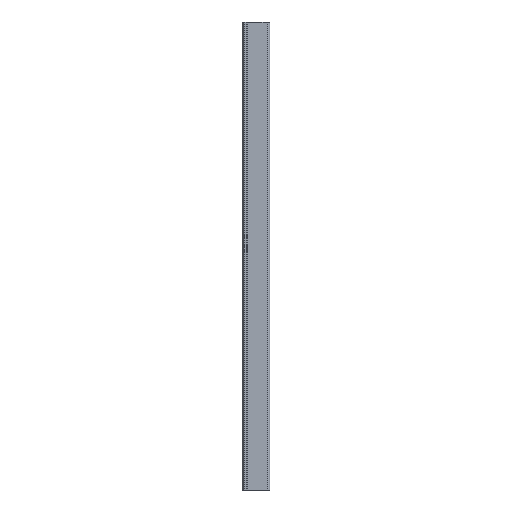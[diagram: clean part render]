
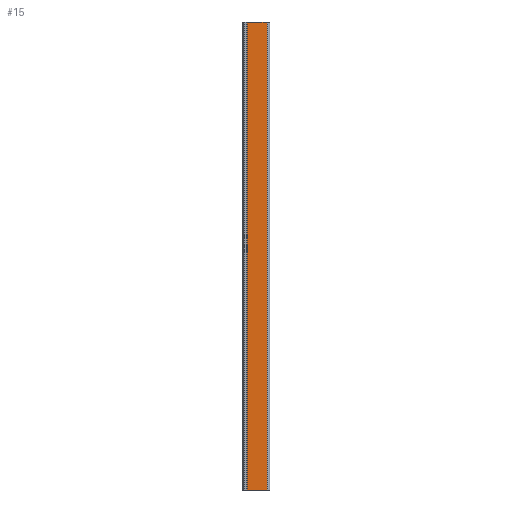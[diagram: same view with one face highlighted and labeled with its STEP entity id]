
A CAD part, front view. The second image highlights one B-rep face of the part: STEP entity #15.
In plain terms, the highlighted planar face has unit normal (0, -1, 0).
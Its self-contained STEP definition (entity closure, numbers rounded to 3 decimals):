
#15 = ADVANCED_FACE ( 'NONE', ( #381 ), #1231, .F. ) ;
#29 = EDGE_CURVE ( 'NONE', #1196, #548, #1386, .T. ) ;
#45 = EDGE_CURVE ( 'NONE', #401, #548, #77, .T. ) ;
#50 = DIRECTION ( 'NONE',  ( 0., 0., 1. ) ) ;
#77 = LINE ( 'NONE', #957, #710 ) ;
#85 = CARTESIAN_POINT ( 'NONE',  ( -11.5, -12.5, -250. ) ) ;
#165 = DIRECTION ( 'NONE',  ( 1., 0., 0. ) ) ;
#179 = VERTEX_POINT ( 'NONE', #85 ) ;
#326 = CARTESIAN_POINT ( 'NONE',  ( -11.5, -12.5, 250. ) ) ;
#349 = ORIENTED_EDGE ( 'NONE', *, *, #1329, .T. ) ;
#381 = FACE_OUTER_BOUND ( 'NONE', #1325, .T. ) ;
#382 = EDGE_CURVE ( 'NONE', #1196, #179, #796, .T. ) ;
#401 = VERTEX_POINT ( 'NONE', #481 ) ;
#410 = VECTOR ( 'NONE', #165, 1000. ) ;
#458 = LINE ( 'NONE', #699, #1205 ) ;
#481 = CARTESIAN_POINT ( 'NONE',  ( 9.5, -12.5, -250. ) ) ;
#497 = DIRECTION ( 'NONE',  ( 0., 1., 0. ) ) ;
#548 = VERTEX_POINT ( 'NONE', #956 ) ;
#554 = AXIS2_PLACEMENT_3D ( 'NONE', #679, #497, #1071 ) ;
#632 = ORIENTED_EDGE ( 'NONE', *, *, #382, .T. ) ;
#679 = CARTESIAN_POINT ( 'NONE',  ( -13.5, -12.5, 250. ) ) ;
#699 = CARTESIAN_POINT ( 'NONE',  ( -13.5, -12.5, -250. ) ) ;
#710 = VECTOR ( 'NONE', #50, 1000. ) ;
#796 = LINE ( 'NONE', #1014, #869 ) ;
#840 = CARTESIAN_POINT ( 'NONE',  ( -13.5, -12.5, 250. ) ) ;
#869 = VECTOR ( 'NONE', #1230, 1000. ) ;
#897 = DIRECTION ( 'NONE',  ( 1., 0., 0. ) ) ;
#956 = CARTESIAN_POINT ( 'NONE',  ( 9.5, -12.5, 250. ) ) ;
#957 = CARTESIAN_POINT ( 'NONE',  ( 9.5, -12.5, 250. ) ) ;
#1014 = CARTESIAN_POINT ( 'NONE',  ( -11.5, -12.5, -250. ) ) ;
#1062 = ORIENTED_EDGE ( 'NONE', *, *, #45, .T. ) ;
#1071 = DIRECTION ( 'NONE',  ( -1., 0., 0. ) ) ;
#1196 = VERTEX_POINT ( 'NONE', #326 ) ;
#1205 = VECTOR ( 'NONE', #897, 1000. ) ;
#1230 = DIRECTION ( 'NONE',  ( 0., 0., -1. ) ) ;
#1231 = PLANE ( 'NONE',  #554 ) ;
#1316 = ORIENTED_EDGE ( 'NONE', *, *, #29, .F. ) ;
#1325 = EDGE_LOOP ( 'NONE', ( #1316, #632, #349, #1062 ) ) ;
#1329 = EDGE_CURVE ( 'NONE', #179, #401, #458, .T. ) ;
#1386 = LINE ( 'NONE', #840, #410 ) ;
